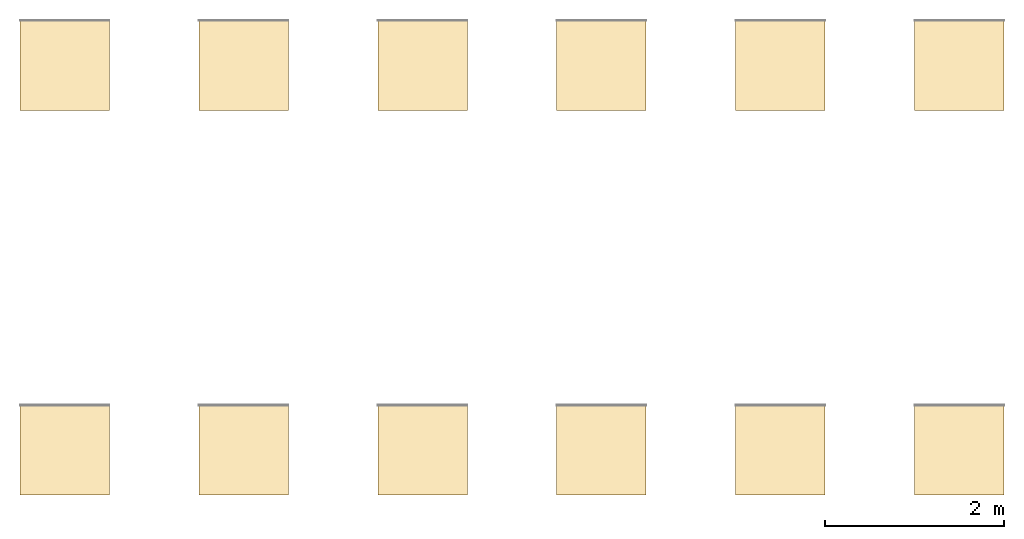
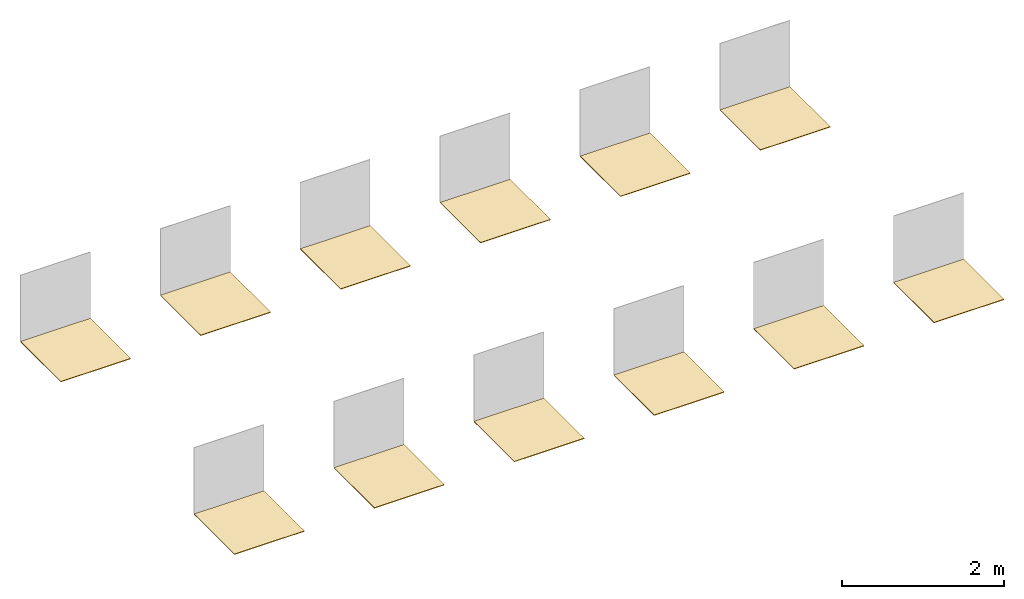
# One storey, part 2 of 2: 12 coverings.
"""IFC2X3 building model written with IfcOpenShell, lengths in millimetres."""

from ifc_helpers import new_model, entity, si_unit, converted_unit, derived_unit, direction, frame, frame_2d, origin, place, context, subcontext, project, spatial, rectangle, extrude, material, layer, layer_set, layer_usage, type_object, element, save


model = new_model("IFC2X3")

# Units and contexts
model_context = context("Model", 3, precision=0.01, world=origin(), true_north=direction((6.12303176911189e-17, 1.0)))
body_context = subcontext(model_context, "Body", "Model", "MODEL_VIEW")
ifc_project = project(units=[si_unit("LENGTHUNIT", "METRE", prefix="MILLI"), si_unit("AREAUNIT", "SQUARE_METRE"), si_unit("VOLUMEUNIT", "CUBIC_METRE"), converted_unit("PLANEANGLEUNIT", "DEGREE", entity("IfcRatioMeasure", 0.0174532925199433), si_unit("PLANEANGLEUNIT", "RADIAN"), dimensions=[0, 0, 0, 0, 0, 0, 0]), si_unit("MASSUNIT", "GRAM", prefix="KILO"), derived_unit("MASSDENSITYUNIT", [(si_unit("MASSUNIT", "GRAM", prefix="KILO"), 1), (si_unit("LENGTHUNIT", "METRE"), -3)]), derived_unit("MOMENTOFINERTIAUNIT", [(si_unit("LENGTHUNIT", "METRE"), 4)]), si_unit("TIMEUNIT", "SECOND"), si_unit("FREQUENCYUNIT", "HERTZ"), si_unit("THERMODYNAMICTEMPERATUREUNIT", "DEGREE_CELSIUS"), derived_unit("THERMALTRANSMITTANCEUNIT", [(si_unit("MASSUNIT", "GRAM", prefix="KILO"), 1), (si_unit("THERMODYNAMICTEMPERATUREUNIT", "KELVIN"), -1), (si_unit("TIMEUNIT", "SECOND"), -3)]), derived_unit("VOLUMETRICFLOWRATEUNIT", [(si_unit("LENGTHUNIT", "METRE"), 3), (si_unit("TIMEUNIT", "SECOND"), -1)]), si_unit("ELECTRICCURRENTUNIT", "AMPERE"), si_unit("ELECTRICVOLTAGEUNIT", "VOLT"), si_unit("POWERUNIT", "WATT"), si_unit("FORCEUNIT", "NEWTON", prefix="KILO"), si_unit("ILLUMINANCEUNIT", "LUX"), si_unit("LUMINOUSFLUXUNIT", "LUMEN"), si_unit("LUMINOUSINTENSITYUNIT", "CANDELA"), derived_unit("USERDEFINED", [(si_unit("MASSUNIT", "GRAM", prefix="KILO"), -1), (si_unit("LENGTHUNIT", "METRE"), -2), (si_unit("TIMEUNIT", "SECOND"), 3), (si_unit("LUMINOUSFLUXUNIT", "LUMEN"), 1)]), derived_unit("LINEARVELOCITYUNIT", [(si_unit("LENGTHUNIT", "METRE"), 1), (si_unit("TIMEUNIT", "SECOND"), -1)]), si_unit("PRESSUREUNIT", "PASCAL"), derived_unit("USERDEFINED", [(si_unit("LENGTHUNIT", "METRE"), -2), (si_unit("MASSUNIT", "GRAM", prefix="KILO"), 1), (si_unit("TIMEUNIT", "SECOND"), -2)]), derived_unit("LINEARFORCEUNIT", [(si_unit("MASSUNIT", "GRAM", prefix="KILO"), 1), (si_unit("LENGTHUNIT", "METRE"), 1), (si_unit("TIMEUNIT", "SECOND"), -2), (si_unit("LENGTHUNIT", "METRE"), -1)]), derived_unit("PLANARFORCEUNIT", [(si_unit("MASSUNIT", "GRAM", prefix="KILO"), 1), (si_unit("LENGTHUNIT", "METRE"), 1), (si_unit("TIMEUNIT", "SECOND"), -2), (si_unit("LENGTHUNIT", "METRE"), -2)])], contexts=[model_context])

# Site, building, storey
site_placement = place(None, origin())
site = spatial("IfcSite", under=ifc_project, at=site_placement, Name="Default", CompositionType="ELEMENT")
building_placement = place(site_placement, origin())
building = spatial("IfcBuilding", under=site, at=building_placement, CompositionType="ELEMENT")
storey_placement = place(building_placement, origin())
storey = spatial("IfcBuildingStorey", under=building, at=storey_placement, Name="Level 1", CompositionType="ELEMENT", Elevation=0.0)

# Coverings
ifc_material_1 = material(Name="REVIGRÉS-OMNISTONE-HEXAGON-60x60-MATTRECT-BONE")
ifc_layer_1 = layer(ifc_material_1, 9.8)
ifc_layer_set_1 = layer_set([ifc_layer_1], Name="Floor:REVIGRÉS-OMNISTONE-HEXAGON-60X60-MATTRECT-BONE")
ifc_layer_usage_1 = layer_usage(ifc_layer_set_1, "AXIS3", "POSITIVE", 0.0)
covering_type_1 = type_object("IfcCoveringType", Name="Floor:REVIGRÉS-OMNISTONE-HEXAGON-60X60-MATTRECT-BONE", PredefinedType="CLADDING", material=ifc_layer_set_1)
covering_1_placement = place(storey_placement, origin())
element("IfcCovering", 1, at=covering_1_placement, inside=storey, type_object=covering_type_1, material=ifc_layer_usage_1, Name="Floor:REVIGRÉS-OMNISTONE-HEXAGON-60X60-MATTRECT-BONE", ObjectType="Floor:REVIGRÉS-OMNISTONE-HEXAGON-60X60-MATTRECT-BONE", PredefinedType="CLADDING", context=body_context, shape_type="SweptSolid", body=[
    extrude(rectangle(XDim=1000.0, YDim=999.999999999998, at=frame_2d((-1.08002495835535e-12, 0.0), x_axis=(1.0, 0.0))), frame((60608.2238843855, 18311.2034685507, 0.0), z_axis=(0.0, 0.0, -1.0), x_axis=(0.0, 1.0, 0.0)), (0.0, 0.0, 1.0), 9.8),
])
ifc_material_2 = material(Name="REVIGRÉS-OMNISTONE-HEXAGON-60x60-SOFT-BONE")
ifc_layer_2 = layer(ifc_material_2, 9.8)
ifc_layer_set_2 = layer_set([ifc_layer_2], Name="Floor:REVIGRÉS-OMNISTONE-HEXAGON-60X60-SOFT-BONE")
ifc_layer_usage_2 = layer_usage(ifc_layer_set_2, "AXIS3", "POSITIVE", 0.0)
covering_type_2 = type_object("IfcCoveringType", Name="Floor:REVIGRÉS-OMNISTONE-HEXAGON-60X60-SOFT-BONE", PredefinedType="CLADDING", material=ifc_layer_set_2)
covering_2_placement = place(storey_placement, origin())
element("IfcCovering", 2, at=covering_2_placement, inside=storey, type_object=covering_type_2, material=ifc_layer_usage_2, Name="Floor:REVIGRÉS-OMNISTONE-HEXAGON-60X60-SOFT-BONE", ObjectType="Floor:REVIGRÉS-OMNISTONE-HEXAGON-60X60-SOFT-BONE", PredefinedType="CLADDING", context=body_context, shape_type="SweptSolid", body=[
    extrude(rectangle(XDim=1000.0, YDim=999.999999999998, at=frame_2d((1.08002495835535e-12, 0.0), x_axis=(1.0, 0.0))), frame((62608.2238843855, 18311.2034685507, 0.0), z_axis=(0.0, 0.0, -1.0), x_axis=(0.0, 1.0, 0.0)), (0.0, 0.0, 1.0), 9.8),
])
ifc_material_3 = material(Name="REVIGRÉS-OMNISTONE-HEXAGON-60x60-MATTRECT-ICE")
ifc_layer_3 = layer(ifc_material_3, 9.8)
ifc_layer_set_3 = layer_set([ifc_layer_3], Name="Floor:REVIGRÉS-OMNISTONE-HEXAGON-60X60-MATTRECT-ICE")
ifc_layer_usage_3 = layer_usage(ifc_layer_set_3, "AXIS3", "POSITIVE", 0.0)
covering_type_3 = type_object("IfcCoveringType", Name="Floor:REVIGRÉS-OMNISTONE-HEXAGON-60X60-MATTRECT-ICE", PredefinedType="CLADDING", material=ifc_layer_set_3)
covering_3_placement = place(storey_placement, origin())
element("IfcCovering", 3, at=covering_3_placement, inside=storey, type_object=covering_type_3, material=ifc_layer_usage_3, Name="Floor:REVIGRÉS-OMNISTONE-HEXAGON-60X60-MATTRECT-ICE", ObjectType="Floor:REVIGRÉS-OMNISTONE-HEXAGON-60X60-MATTRECT-ICE", PredefinedType="CLADDING", context=body_context, shape_type="SweptSolid", body=[
    extrude(rectangle(XDim=1000.0, YDim=999.999999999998, at=frame_2d((-1.08002495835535e-12, -8.66862137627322e-12), x_axis=(1.0, 0.0))), frame((64608.2238843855, 18311.2034685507, 0.0), z_axis=(0.0, 0.0, -1.0), x_axis=(0.0, 1.0, 0.0)), (0.0, 0.0, 1.0), 9.8),
])
ifc_material_4 = material(Name="REVIGRÉS-OMNISTONE-HEXAGON-60x60-SOFT-ICE")
ifc_layer_4 = layer(ifc_material_4, 9.8)
ifc_layer_set_4 = layer_set([ifc_layer_4], Name="Floor:REVIGRÉS-OMNISTONE-HEXAGON-60X60-SOFT-ICE")
ifc_layer_usage_4 = layer_usage(ifc_layer_set_4, "AXIS3", "POSITIVE", 0.0)
covering_type_4 = type_object("IfcCoveringType", Name="Floor:REVIGRÉS-OMNISTONE-HEXAGON-60X60-SOFT-ICE", PredefinedType="CLADDING", material=ifc_layer_set_4)
covering_4_placement = place(storey_placement, origin())
element("IfcCovering", 4, at=covering_4_placement, inside=storey, type_object=covering_type_4, material=ifc_layer_usage_4, Name="Floor:REVIGRÉS-OMNISTONE-HEXAGON-60X60-SOFT-ICE", ObjectType="Floor:REVIGRÉS-OMNISTONE-HEXAGON-60X60-SOFT-ICE", PredefinedType="CLADDING", context=body_context, shape_type="SweptSolid", body=[
    extrude(rectangle(XDim=1000.0, YDim=999.999999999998, at=frame_2d((1.08002495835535e-12, 0.0), x_axis=(1.0, 0.0))), frame((66608.2238843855, 18311.2034685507, 0.0), z_axis=(0.0, 0.0, -1.0), x_axis=(0.0, 1.0, 0.0)), (0.0, 0.0, 1.0), 9.8),
])
ifc_material_5 = material(Name="REVIGRÉS-OMNISTONE-HEXAGON-60x60-MATTRECT-IRON")
ifc_layer_5 = layer(ifc_material_5, 9.8)
ifc_layer_set_5 = layer_set([ifc_layer_5], Name="Floor:REVIGRÉS-OMNISTONE-HEXAGON-60X60-MATTRECT-IRON")
ifc_layer_usage_5 = layer_usage(ifc_layer_set_5, "AXIS3", "POSITIVE", 0.0)
covering_type_5 = type_object("IfcCoveringType", Name="Floor:REVIGRÉS-OMNISTONE-HEXAGON-60X60-MATTRECT-IRON", PredefinedType="CLADDING", material=ifc_layer_set_5)
covering_5_placement = place(storey_placement, origin())
element("IfcCovering", 5, at=covering_5_placement, inside=storey, type_object=covering_type_5, material=ifc_layer_usage_5, Name="Floor:REVIGRÉS-OMNISTONE-HEXAGON-60X60-MATTRECT-IRON", ObjectType="Floor:REVIGRÉS-OMNISTONE-HEXAGON-60X60-MATTRECT-IRON", PredefinedType="CLADDING", context=body_context, shape_type="SweptSolid", body=[
    extrude(rectangle(XDim=1000.0, YDim=999.999999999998, at=frame_2d((1.08002495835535e-12, 0.0), x_axis=(1.0, 0.0))), frame((68608.2238843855, 18311.2034685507, 0.0), z_axis=(0.0, 0.0, -1.0), x_axis=(0.0, 1.0, 0.0)), (0.0, 0.0, 1.0), 9.8),
])
ifc_material_6 = material(Name="REVIGRÉS-OMNISTONE-HEXAGON-60x60-SOFT-IRON")
ifc_layer_6 = layer(ifc_material_6, 9.8)
ifc_layer_set_6 = layer_set([ifc_layer_6], Name="Floor:REVIGRÉS-OMNISTONE-HEXAGON-60X60-SOFT-IRON")
ifc_layer_usage_6 = layer_usage(ifc_layer_set_6, "AXIS3", "POSITIVE", 0.0)
covering_type_6 = type_object("IfcCoveringType", Name="Floor:REVIGRÉS-OMNISTONE-HEXAGON-60X60-SOFT-IRON", PredefinedType="CLADDING", material=ifc_layer_set_6)
covering_6_placement = place(storey_placement, origin())
element("IfcCovering", 6, at=covering_6_placement, inside=storey, type_object=covering_type_6, material=ifc_layer_usage_6, Name="Floor:REVIGRÉS-OMNISTONE-HEXAGON-60X60-SOFT-IRON", ObjectType="Floor:REVIGRÉS-OMNISTONE-HEXAGON-60X60-SOFT-IRON", PredefinedType="CLADDING", context=body_context, shape_type="SweptSolid", body=[
    extrude(rectangle(XDim=1000.0, YDim=999.999999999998, at=frame_2d((1.08002495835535e-12, 0.0), x_axis=(1.0, 0.0))), frame((70608.2238843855, 18311.2034685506, 0.0), z_axis=(0.0, 0.0, -1.0), x_axis=(0.0, 1.0, 0.0)), (0.0, 0.0, 1.0), 9.8),
])
ifc_material_7 = material(Name="REVIGRÉS-OMNISTONE-HEXAGON-60x60-MATTRECT-JET")
ifc_layer_7 = layer(ifc_material_7, 9.8)
ifc_layer_set_7 = layer_set([ifc_layer_7], Name="Floor:REVIGRÉS-OMNISTONE-HEXAGON-60X60-MATTRECT-JET")
ifc_layer_usage_7 = layer_usage(ifc_layer_set_7, "AXIS3", "POSITIVE", 0.0)
covering_type_7 = type_object("IfcCoveringType", Name="Floor:REVIGRÉS-OMNISTONE-HEXAGON-60X60-MATTRECT-JET", PredefinedType="CLADDING", material=ifc_layer_set_7)
covering_7_placement = place(storey_placement, origin())
element("IfcCovering", 7, at=covering_7_placement, inside=storey, type_object=covering_type_7, material=ifc_layer_usage_7, Name="Floor:REVIGRÉS-OMNISTONE-HEXAGON-60X60-MATTRECT-JET", ObjectType="Floor:REVIGRÉS-OMNISTONE-HEXAGON-60X60-MATTRECT-JET", PredefinedType="CLADDING", context=body_context, shape_type="SweptSolid", body=[
    extrude(rectangle(XDim=1000.0, YDim=999.999999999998, at=frame_2d((-1.08002495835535e-12, 8.66862137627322e-12), x_axis=(1.0, 0.0))), frame((60608.2238843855, 14011.2034685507, 0.0), z_axis=(0.0, 0.0, -1.0), x_axis=(0.0, 1.0, 0.0)), (0.0, 0.0, 1.0), 9.8),
])
ifc_material_8 = material(Name="REVIGRÉS-OMNISTONE-HEXAGON-60x60-SOFT-JET")
ifc_layer_8 = layer(ifc_material_8, 9.8)
ifc_layer_set_8 = layer_set([ifc_layer_8], Name="Floor:REVIGRÉS-OMNISTONE-HEXAGON-60X60-SOFT-JET")
ifc_layer_usage_8 = layer_usage(ifc_layer_set_8, "AXIS3", "POSITIVE", 0.0)
covering_type_8 = type_object("IfcCoveringType", Name="Floor:REVIGRÉS-OMNISTONE-HEXAGON-60X60-SOFT-JET", PredefinedType="CLADDING", material=ifc_layer_set_8)
covering_8_placement = place(storey_placement, origin())
element("IfcCovering", 8, at=covering_8_placement, inside=storey, type_object=covering_type_8, material=ifc_layer_usage_8, Name="Floor:REVIGRÉS-OMNISTONE-HEXAGON-60X60-SOFT-JET", ObjectType="Floor:REVIGRÉS-OMNISTONE-HEXAGON-60X60-SOFT-JET", PredefinedType="CLADDING", context=body_context, shape_type="SweptSolid", body=[
    extrude(rectangle(XDim=1000.0, YDim=999.999999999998, at=frame_2d((1.08002495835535e-12, 0.0), x_axis=(1.0, 0.0))), frame((62608.2238843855, 14011.2034685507, 0.0), z_axis=(0.0, 0.0, -1.0), x_axis=(0.0, 1.0, 0.0)), (0.0, 0.0, 1.0), 9.8),
])
ifc_material_9 = material(Name="REVIGRÉS-OMNISTONE-HEXAGON-60x60-MATTRECT-PLATINA")
ifc_layer_9 = layer(ifc_material_9, 9.8)
ifc_layer_set_9 = layer_set([ifc_layer_9], Name="Floor:REVIGRÉS-OMNISTONE-HEXAGON-60X60-MATTRECT-PLATINA")
ifc_layer_usage_9 = layer_usage(ifc_layer_set_9, "AXIS3", "POSITIVE", 0.0)
covering_type_9 = type_object("IfcCoveringType", Name="Floor:REVIGRÉS-OMNISTONE-HEXAGON-60X60-MATTRECT-PLATINA", PredefinedType="CLADDING", material=ifc_layer_set_9)
covering_9_placement = place(storey_placement, origin())
element("IfcCovering", 9, at=covering_9_placement, inside=storey, type_object=covering_type_9, material=ifc_layer_usage_9, Name="Floor:REVIGRÉS-OMNISTONE-HEXAGON-60X60-MATTRECT-PLATINA", ObjectType="Floor:REVIGRÉS-OMNISTONE-HEXAGON-60X60-MATTRECT-PLATINA", PredefinedType="CLADDING", context=body_context, shape_type="SweptSolid", body=[
    extrude(rectangle(XDim=1000.0, YDim=999.999999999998, at=frame_2d((-1.08002495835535e-12, 0.0), x_axis=(1.0, 0.0))), frame((64608.2238843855, 14011.2034685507, 0.0), z_axis=(0.0, 0.0, -1.0), x_axis=(0.0, 1.0, 0.0)), (0.0, 0.0, 1.0), 9.8),
])
ifc_material_10 = material(Name="REVIGRÉS-OMNISTONE-HEXAGON-60x60-SOFT-PLATINA")
ifc_layer_10 = layer(ifc_material_10, 9.8)
ifc_layer_set_10 = layer_set([ifc_layer_10], Name="Floor:REVIGRÉS-OMNISTONE-HEXAGON-60X60-SOFT-PLATINA")
ifc_layer_usage_10 = layer_usage(ifc_layer_set_10, "AXIS3", "POSITIVE", 0.0)
covering_type_10 = type_object("IfcCoveringType", Name="Floor:REVIGRÉS-OMNISTONE-HEXAGON-60X60-SOFT-PLATINA", PredefinedType="CLADDING", material=ifc_layer_set_10)
covering_10_placement = place(storey_placement, origin())
element("IfcCovering", 10, at=covering_10_placement, inside=storey, type_object=covering_type_10, material=ifc_layer_usage_10, Name="Floor:REVIGRÉS-OMNISTONE-HEXAGON-60X60-SOFT-PLATINA", ObjectType="Floor:REVIGRÉS-OMNISTONE-HEXAGON-60X60-SOFT-PLATINA", PredefinedType="CLADDING", context=body_context, shape_type="SweptSolid", body=[
    extrude(rectangle(XDim=1000.0, YDim=999.999999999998, at=frame_2d((1.08002495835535e-12, 0.0), x_axis=(1.0, 0.0))), frame((66608.2238843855, 14011.2034685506, 0.0), z_axis=(0.0, 0.0, -1.0), x_axis=(0.0, 1.0, 0.0)), (0.0, 0.0, 1.0), 9.8),
])
ifc_material_11 = material(Name="REVIGRÉS-OMNISTONE-HEXAGON-60x60-MATTRECT-ROPE")
ifc_layer_11 = layer(ifc_material_11, 9.8)
ifc_layer_set_11 = layer_set([ifc_layer_11], Name="Floor:REVIGRÉS-OMNISTONE-HEXAGON-60X60-MATTRECT-ROPE")
ifc_layer_usage_11 = layer_usage(ifc_layer_set_11, "AXIS3", "POSITIVE", 0.0)
covering_type_11 = type_object("IfcCoveringType", Name="Floor:REVIGRÉS-OMNISTONE-HEXAGON-60X60-MATTRECT-ROPE", PredefinedType="CLADDING", material=ifc_layer_set_11)
covering_11_placement = place(storey_placement, origin())
element("IfcCovering", 11, at=covering_11_placement, inside=storey, type_object=covering_type_11, material=ifc_layer_usage_11, Name="Floor:REVIGRÉS-OMNISTONE-HEXAGON-60X60-MATTRECT-ROPE", ObjectType="Floor:REVIGRÉS-OMNISTONE-HEXAGON-60X60-MATTRECT-ROPE", PredefinedType="CLADDING", context=body_context, shape_type="SweptSolid", body=[
    extrude(rectangle(XDim=1000.0, YDim=999.999999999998, at=frame_2d((-1.08002495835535e-12, -8.66862137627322e-12), x_axis=(1.0, 0.0))), frame((68608.2238843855, 14011.2034685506, 0.0), z_axis=(0.0, 0.0, -1.0), x_axis=(0.0, 1.0, 0.0)), (0.0, 0.0, 1.0), 9.8),
])
ifc_material_12 = material(Name="REVIGRÉS-OMNISTONE-HEXAGON-60x60-SOFT-ROPE")
ifc_layer_12 = layer(ifc_material_12, 9.8)
ifc_layer_set_12 = layer_set([ifc_layer_12], Name="Floor:REVIGRÉS-OMNISTONE-HEXAGON-60X60-SOFT-ROPE")
ifc_layer_usage_12 = layer_usage(ifc_layer_set_12, "AXIS3", "POSITIVE", 0.0)
covering_type_12 = type_object("IfcCoveringType", Name="Floor:REVIGRÉS-OMNISTONE-HEXAGON-60X60-SOFT-ROPE", PredefinedType="CLADDING", material=ifc_layer_set_12)
covering_12_placement = place(storey_placement, origin())
element("IfcCovering", 12, at=covering_12_placement, inside=storey, type_object=covering_type_12, material=ifc_layer_usage_12, Name="Floor:REVIGRÉS-OMNISTONE-HEXAGON-60X60-SOFT-ROPE", ObjectType="Floor:REVIGRÉS-OMNISTONE-HEXAGON-60X60-SOFT-ROPE", PredefinedType="CLADDING", context=body_context, shape_type="SweptSolid", body=[
    extrude(rectangle(XDim=1000.0, YDim=999.999999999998, at=frame_2d((1.08002495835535e-12, 0.0), x_axis=(1.0, 0.0))), frame((70608.2238843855, 14011.2034685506, 0.0), z_axis=(0.0, 0.0, -1.0), x_axis=(0.0, 1.0, 0.0)), (0.0, 0.0, 1.0), 9.8),
])

save(model, "model.ifc")
